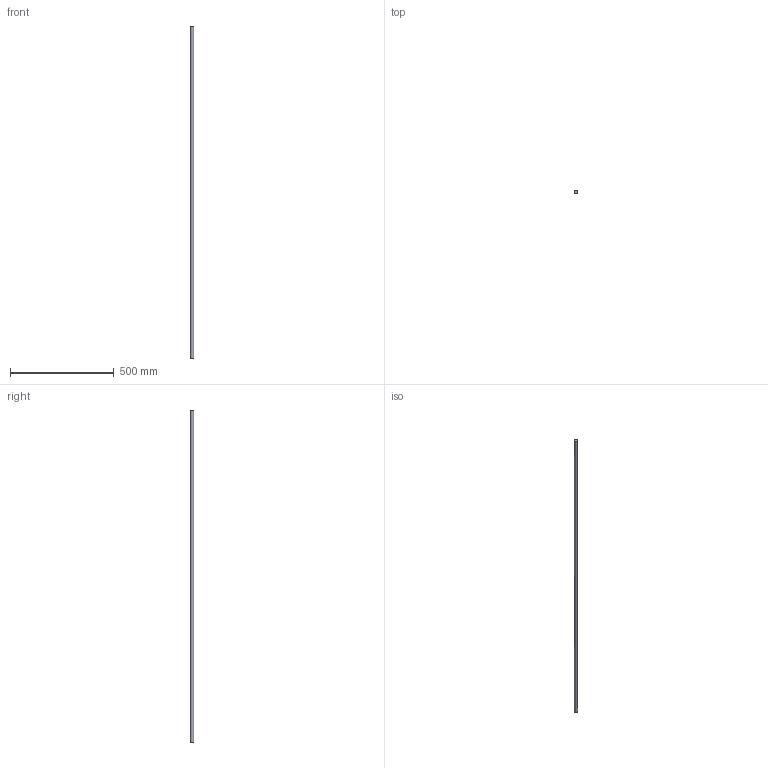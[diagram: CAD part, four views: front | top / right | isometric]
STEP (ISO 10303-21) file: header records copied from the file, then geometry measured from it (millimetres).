
FILE_DESCRIPTION(/* description */ (''),/* implementation_level */ '2;1');
FILE_NAME(/* name */ 'C:\Users\David\Desktop\stepFiles\Profilfuehrung\WF16x1600.stp',/* time_stamp */ '2018-06-24T15:46:56+02:00',/* author */ ('David'),/* organization */ (''),/* preprocessor_version */ 'ST-DEVELOPER v17',/* originating_system */ 'Autodesk Inventor 2019',/* authorisation */ '');
FILE_SCHEMA (('AUTOMOTIVE_DESIGN { 1 0 10303 214 3 1 1 }'));
Length unit declared in the file: millimetre
Products named in the file (1): Wellenfuehrung
Bounding box: 16 x 16 x 1600 mm (x, y, z)
Volume: 321699.1 mm3; surface area: 80826.9 mm2
Topology: 1 solids, 1 shells, 3 faces, 3 edges, 2 vertices
Faces by surface type: plane 2, cylinder 1
Full cylindrical faces by diameter (mm): 16 x1
Entity records: 98 total; most frequent: DIRECTION 13, CARTESIAN_POINT 9, ORIENTED_EDGE 6, AXIS2_PLACEMENT_3D 6, FACE_OUTER_BOUND 3, EDGE_LOOP 3, EDGE_CURVE 3, ADVANCED_FACE 3
